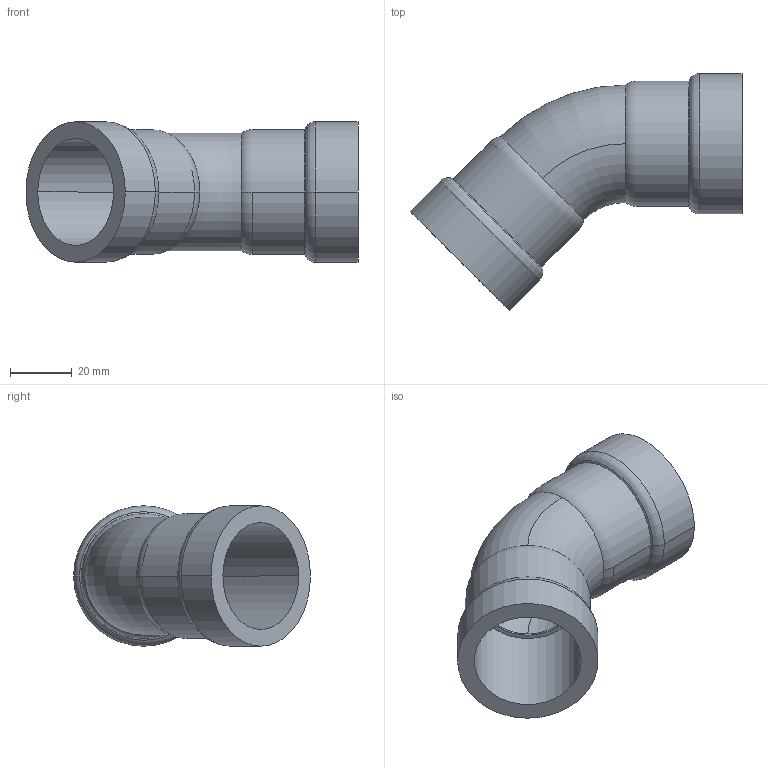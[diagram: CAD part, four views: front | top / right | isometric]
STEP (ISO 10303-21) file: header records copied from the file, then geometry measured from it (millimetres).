
FILE_DESCRIPTION(('Creo Elements/Direct Modeling STEP Export'),'2;1');
FILE_NAME('C9413_1.stp','2020-07-14T13:43:49',(''),(''),'PTC Creo Elements/Direct Modeling STEP processor for AP214 (Solid Model)','PTC Creo Elements/Direct Modeling 19.0C 15-Aug-2015 (C) Parametric Technology GmbH','');
FILE_SCHEMA(('AUTOMOTIVE_DESIGN { 1 0 10303 214 1 1 1 1 }'));
Length unit declared in the file: millimetre
Products named in the file (1): 9413_1
Bounding box: 107.36 x 76.57 x 45.4 mm (x, y, z)
Volume: 46484.7 mm3; surface area: 26813 mm2
Topology: 1 solids, 1 shells, 38 faces, 84 edges, 52 vertices
Faces by surface type: cylinder 16, torus 12, plane 6, cone 4
Entity records: 952 total; most frequent: ORIENTED_EDGE 168, DIRECTION 166, CARTESIAN_POINT 145, EDGE_CURVE 84, AXIS2_PLACEMENT_3D 73, VERTEX_POINT 52, EDGE_LOOP 44, FACE_OUTER_BOUND 38
